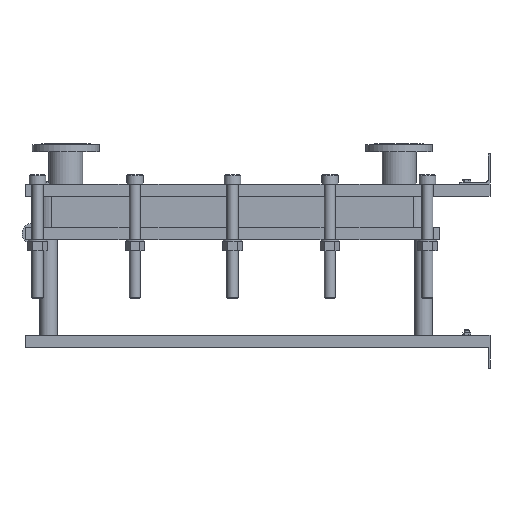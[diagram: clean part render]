
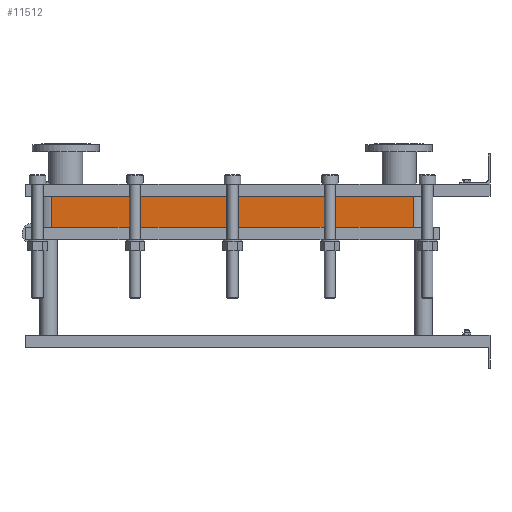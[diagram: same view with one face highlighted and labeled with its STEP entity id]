
A CAD part, left-side view. The second image highlights one B-rep face of the part: STEP entity #11512.
In plain terms, the highlighted planar face has unit normal (-1, 0, 0).
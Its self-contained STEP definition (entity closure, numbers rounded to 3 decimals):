
#1129=LINE('',#23232,#2102);
#1130=LINE('',#23236,#2103);
#1131=LINE('',#23238,#2104);
#1132=LINE('',#23239,#2105);
#2102=VECTOR('',#15887,10.);
#2103=VECTOR('',#15892,10.);
#2104=VECTOR('',#15893,10.);
#2105=VECTOR('',#15894,10.);
#3267=FACE_OUTER_BOUND('',#4093,.T.);
#4093=EDGE_LOOP('',(#10103,#10104,#10105,#10106));
#5642=VERTEX_POINT('',#23229);
#5643=VERTEX_POINT('',#23231);
#5644=VERTEX_POINT('',#23235);
#5645=VERTEX_POINT('',#23237);
#7159=EDGE_CURVE('',#5643,#5642,#1129,.T.);
#7161=EDGE_CURVE('',#5642,#5644,#1130,.T.);
#7162=EDGE_CURVE('',#5645,#5644,#1131,.T.);
#7163=EDGE_CURVE('',#5645,#5643,#1132,.T.);
#10103=ORIENTED_EDGE('',*,*,#7161,.T.);
#10104=ORIENTED_EDGE('',*,*,#7162,.F.);
#10105=ORIENTED_EDGE('',*,*,#7163,.T.);
#10106=ORIENTED_EDGE('',*,*,#7159,.T.);
#10857=PLANE('',#12751);
#11512=ADVANCED_FACE('',(#3267),#10857,.T.);
#12751=AXIS2_PLACEMENT_3D('',#23234,#15890,#15891);
#15887=DIRECTION('',(0.,0.,-1.));
#15890=DIRECTION('center_axis',(-1.,0.,0.));
#15891=DIRECTION('ref_axis',(0.,1.,0.));
#15892=DIRECTION('',(0.,-1.,0.));
#15893=DIRECTION('',(0.,0.,-1.));
#15894=DIRECTION('',(0.,1.,0.));
#23229=CARTESIAN_POINT('',(-200.,1414.,-100.05));
#23231=CARTESIAN_POINT('',(-200.,1414.,0.));
#23232=CARTESIAN_POINT('',(-200.,1414.,0.));
#23234=CARTESIAN_POINT('Origin',(-200.,248.,0.));
#23235=CARTESIAN_POINT('',(-200.,248.,-100.05));
#23236=CARTESIAN_POINT('',(-200.,539.5,-100.05));
#23237=CARTESIAN_POINT('',(-200.,248.,0.));
#23238=CARTESIAN_POINT('',(-200.,248.,0.));
#23239=CARTESIAN_POINT('',(-200.,248.,0.));
